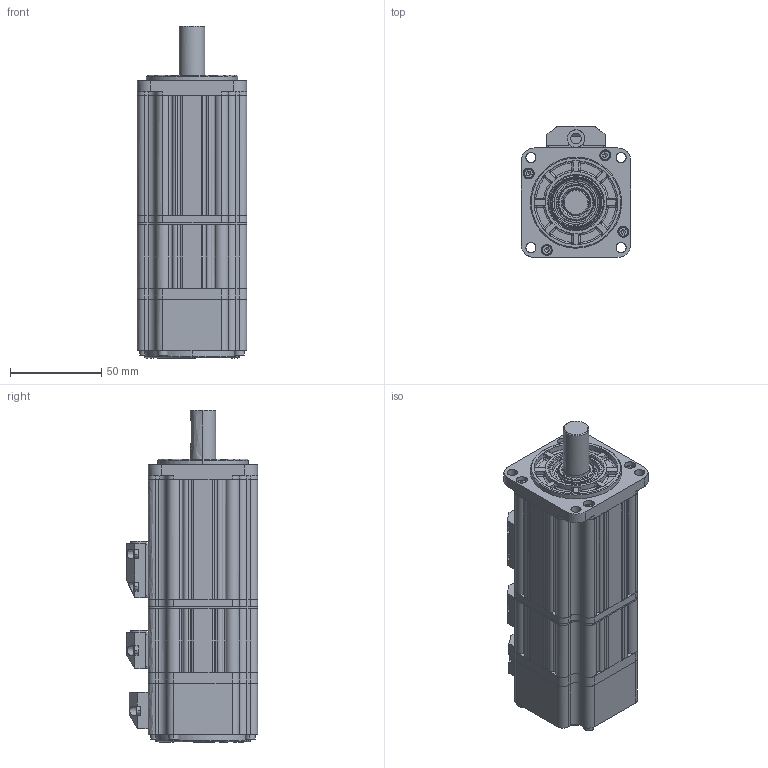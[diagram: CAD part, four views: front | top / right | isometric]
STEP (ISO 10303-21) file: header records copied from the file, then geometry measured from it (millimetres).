
FILE_DESCRIPTION (( 'STEP AP203' ), '1' );
FILE_NAME ('EMJ-02(APA,AFA,AFD)（with holding brake）.STEP', '2020-03-30T01:58:20', ( '' ), ( '' ), 'SwSTEP 2.0', 'SolidWorks 2018', '' );
FILE_SCHEMA (( 'CONFIG_CONTROL_DESIGN' ));
Products named in the file (1): EMJ-02(APA,AFA,AFD)（with holding brake）
Bounding box: 60 x 72 x 182.2 mm (x, y, z)
Surface area: 140294.4 mm2 (no closed solid volume)
Topology: 0 solids, 71 shells, 1710 faces, 4902 edges, 3141 vertices
Faces by surface type: bspline 1710
Entity records: 74057 total; most frequent: CARTESIAN_POINT 47604, ORIENTED_EDGE 8540, EDGE_CURVE 4772, B_SPLINE_CURVE_WITH_KNOTS 3520, VERTEX_POINT 3147, EDGE_LOOP 1966, FACE_OUTER_BOUND 1713, ADVANCED_FACE 1710
